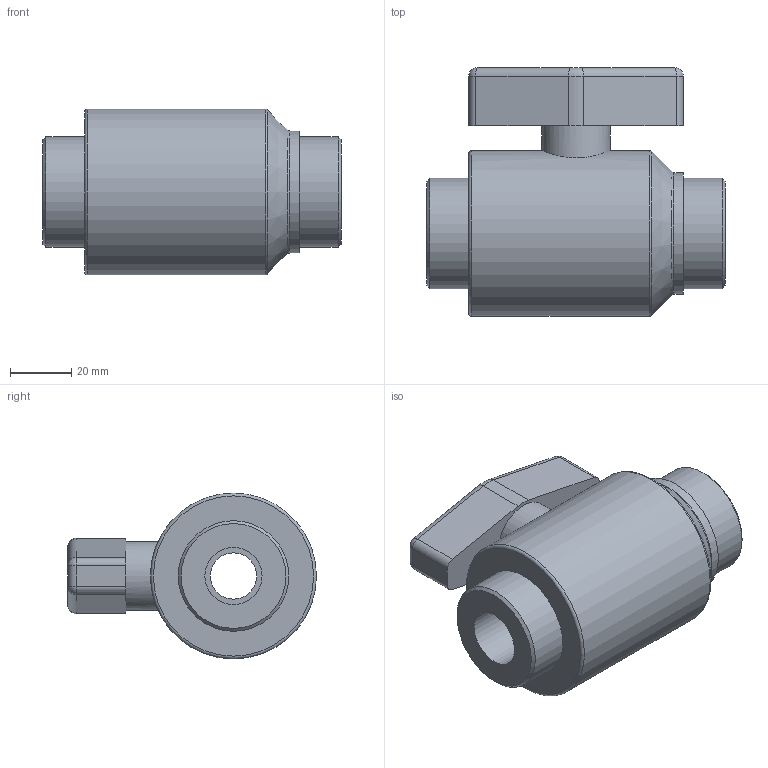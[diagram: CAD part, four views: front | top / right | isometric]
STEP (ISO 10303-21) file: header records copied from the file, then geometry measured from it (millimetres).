
FILE_DESCRIPTION(/* description */ ('PLASSON BALL VALVE DN20 FEMALE 1/2" BSPT'),/* implementation_level */ '2;1');
FILE_NAME(/* name */ 'C:\Dropbox\KIMPROJECTS-Inventor\99-16-3568-Processing\temp 27.06.19\03703\0370300005_037030F005.ipt.stp',/* time_stamp */ '2019-06-27T09:40:32+03:00',/* author */ ('KIM'),/* organization */ (''),/* preprocessor_version */ 'ST-DEVELOPER v15.6',/* originating_system */ 'Autodesk Inventor 2015',/* authorisation */ '');
FILE_SCHEMA (('AUTOMOTIVE_DESIGN { 1 0 10303 214 3 1 1 }'));
Length unit declared in the file: millimetre
Products named in the file (1): 0370300005_037030F005
Bounding box: 97 x 81 x 54 mm (x, y, z)
Volume: 186303.1 mm3; surface area: 28204.6 mm2
Topology: 1 solids, 1 shells, 46 faces, 94 edges, 55 vertices
Faces by surface type: cylinder 20, plane 14, torus 5, sphere 4, cone 3
Full cylindrical faces by diameter (mm): 15.048 x1, 18.631 x2, 22.357 x1, 36 x2, 39.6 x1, 54 x1
Entity records: 1219 total; most frequent: DIRECTION 216, CARTESIAN_POINT 210, ORIENTED_EDGE 154, AXIS2_PLACEMENT_3D 93, EDGE_CURVE 77, EDGE_LOOP 68, VERTEX_POINT 53, STYLED_ITEM 47
